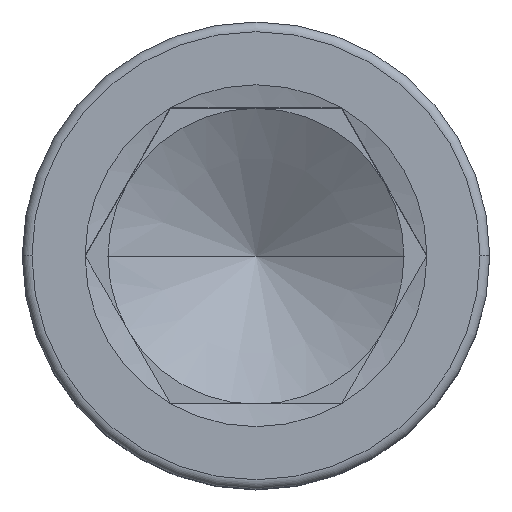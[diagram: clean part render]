
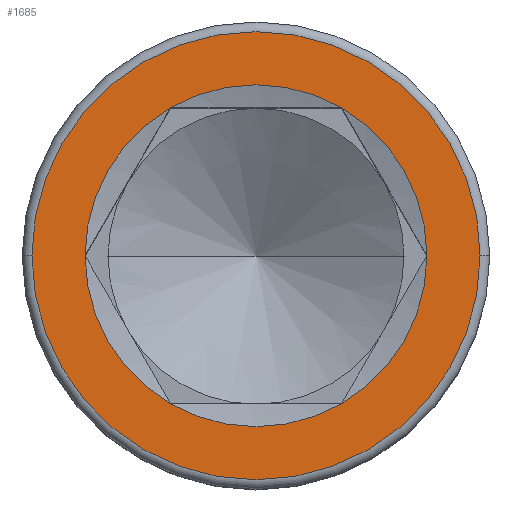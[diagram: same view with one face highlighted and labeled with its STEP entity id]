
A CAD part, top view. The second image highlights one B-rep face of the part: STEP entity #1685.
In plain terms, the highlighted planar face has unit normal (0, 0, 1).
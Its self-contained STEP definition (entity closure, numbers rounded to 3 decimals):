
#28 = VERTEX_POINT ( 'NONE', #1388 ) ;
#65 = ORIENTED_EDGE ( 'NONE', *, *, #357, .F. ) ;
#96 = CARTESIAN_POINT ( 'NONE',  ( 10.97, 0., 20. ) ) ;
#117 = ORIENTED_EDGE ( 'NONE', *, *, #247, .F. ) ;
#127 = DIRECTION ( 'NONE',  ( 1., 0., 0. ) ) ;
#148 = EDGE_LOOP ( 'NONE', ( #1773, #554 ) ) ;
#160 = AXIS2_PLACEMENT_3D ( 'NONE', #648, #1908, #1434 ) ;
#163 = AXIS2_PLACEMENT_3D ( 'NONE', #583, #1341, #253 ) ;
#206 = ORIENTED_EDGE ( 'NONE', *, *, #833, .F. ) ;
#226 = DIRECTION ( 'NONE',  ( 0., 0., 1. ) ) ;
#247 = EDGE_CURVE ( 'NONE', #1219, #1558, #1658, .T. ) ;
#253 = DIRECTION ( 'NONE',  ( 1., 0., 0. ) ) ;
#290 = CIRCLE ( 'NONE', #591, 14.38 ) ;
#316 = CARTESIAN_POINT ( 'NONE',  ( -10.97, 0., 20. ) ) ;
#357 = EDGE_CURVE ( 'NONE', #28, #1896, #1170, .T. ) ;
#379 = VERTEX_POINT ( 'NONE', #1759 ) ;
#414 = FACE_OUTER_BOUND ( 'NONE', #148, .T. ) ;
#422 = EDGE_CURVE ( 'NONE', #379, #1767, #290, .T. ) ;
#426 = CIRCLE ( 'NONE', #1562, 10.97 ) ;
#457 = EDGE_LOOP ( 'NONE', ( #475, #1711, #65, #206, #117, #1959 ) ) ;
#460 = DIRECTION ( 'NONE',  ( 1., 0., 0. ) ) ;
#466 = CARTESIAN_POINT ( 'NONE',  ( 0., 0., 20. ) ) ;
#475 = ORIENTED_EDGE ( 'NONE', *, *, #678, .F. ) ;
#497 = CIRCLE ( 'NONE', #919, 10.97 ) ;
#554 = ORIENTED_EDGE ( 'NONE', *, *, #422, .T. ) ;
#583 = CARTESIAN_POINT ( 'NONE',  ( 0., 0., 20. ) ) ;
#591 = AXIS2_PLACEMENT_3D ( 'NONE', #1006, #1508, #1031 ) ;
#648 = CARTESIAN_POINT ( 'NONE',  ( 0., 0., 20. ) ) ;
#658 = AXIS2_PLACEMENT_3D ( 'NONE', #1235, #1858, #460 ) ;
#678 = EDGE_CURVE ( 'NONE', #1686, #1332, #426, .T. ) ;
#699 = AXIS2_PLACEMENT_3D ( 'NONE', #1147, #1617, #990 ) ;
#707 = DIRECTION ( 'NONE',  ( 1., 0., 0. ) ) ;
#736 = CARTESIAN_POINT ( 'NONE',  ( 5.485, -9.5, 20. ) ) ;
#833 = EDGE_CURVE ( 'NONE', #1558, #28, #1921, .T. ) ;
#847 = FACE_BOUND ( 'NONE', #457, .T. ) ;
#884 = AXIS2_PLACEMENT_3D ( 'NONE', #914, #226, #707 ) ;
#914 = CARTESIAN_POINT ( 'NONE',  ( 0., 0., 20. ) ) ;
#919 = AXIS2_PLACEMENT_3D ( 'NONE', #466, #1444, #1894 ) ;
#990 = DIRECTION ( 'NONE',  ( 1., 0., 0. ) ) ;
#991 = EDGE_CURVE ( 'NONE', #1896, #1686, #1765, .T. ) ;
#1006 = CARTESIAN_POINT ( 'NONE',  ( 0., 0., 20. ) ) ;
#1012 = DIRECTION ( 'NONE',  ( 1., 0., 0. ) ) ;
#1031 = DIRECTION ( 'NONE',  ( 1., 0., 0. ) ) ;
#1034 = CARTESIAN_POINT ( 'NONE',  ( 14.38, 0., 20. ) ) ;
#1147 = CARTESIAN_POINT ( 'NONE',  ( 0., 0., 20. ) ) ;
#1170 = CIRCLE ( 'NONE', #160, 10.97 ) ;
#1188 = PLANE ( 'NONE',  #699 ) ;
#1215 = AXIS2_PLACEMENT_3D ( 'NONE', #1373, #1849, #127 ) ;
#1219 = VERTEX_POINT ( 'NONE', #1895 ) ;
#1235 = CARTESIAN_POINT ( 'NONE',  ( 0., 0., 20. ) ) ;
#1281 = CIRCLE ( 'NONE', #1215, 14.38 ) ;
#1332 = VERTEX_POINT ( 'NONE', #1628 ) ;
#1341 = DIRECTION ( 'NONE',  ( 0., 0., 1. ) ) ;
#1373 = CARTESIAN_POINT ( 'NONE',  ( 0., 0., 20. ) ) ;
#1388 = CARTESIAN_POINT ( 'NONE',  ( -5.485, -9.5, 20. ) ) ;
#1434 = DIRECTION ( 'NONE',  ( 1., 0., 0. ) ) ;
#1444 = DIRECTION ( 'NONE',  ( 0., 0., 1. ) ) ;
#1508 = DIRECTION ( 'NONE',  ( 0., 0., 1. ) ) ;
#1544 = EDGE_CURVE ( 'NONE', #1767, #379, #1281, .T. ) ;
#1558 = VERTEX_POINT ( 'NONE', #316 ) ;
#1562 = AXIS2_PLACEMENT_3D ( 'NONE', #1835, #1586, #1012 ) ;
#1586 = DIRECTION ( 'NONE',  ( 0., 0., 1. ) ) ;
#1617 = DIRECTION ( 'NONE',  ( 0., 0., 1. ) ) ;
#1628 = CARTESIAN_POINT ( 'NONE',  ( 5.485, 9.5, 20. ) ) ;
#1658 = CIRCLE ( 'NONE', #658, 10.97 ) ;
#1685 = ADVANCED_FACE ( 'NONE', ( #414, #847 ), #1188, .T. ) ;
#1686 = VERTEX_POINT ( 'NONE', #96 ) ;
#1711 = ORIENTED_EDGE ( 'NONE', *, *, #991, .F. ) ;
#1759 = CARTESIAN_POINT ( 'NONE',  ( -14.38, 0., 20. ) ) ;
#1765 = CIRCLE ( 'NONE', #884, 10.97 ) ;
#1767 = VERTEX_POINT ( 'NONE', #1034 ) ;
#1773 = ORIENTED_EDGE ( 'NONE', *, *, #1544, .T. ) ;
#1835 = CARTESIAN_POINT ( 'NONE',  ( 0., 0., 20. ) ) ;
#1849 = DIRECTION ( 'NONE',  ( 0., 0., 1. ) ) ;
#1858 = DIRECTION ( 'NONE',  ( 0., 0., 1. ) ) ;
#1894 = DIRECTION ( 'NONE',  ( 1., 0., 0. ) ) ;
#1895 = CARTESIAN_POINT ( 'NONE',  ( -5.485, 9.5, 20. ) ) ;
#1896 = VERTEX_POINT ( 'NONE', #736 ) ;
#1908 = DIRECTION ( 'NONE',  ( 0., 0., 1. ) ) ;
#1921 = CIRCLE ( 'NONE', #163, 10.97 ) ;
#1931 = EDGE_CURVE ( 'NONE', #1332, #1219, #497, .T. ) ;
#1959 = ORIENTED_EDGE ( 'NONE', *, *, #1931, .F. ) ;
